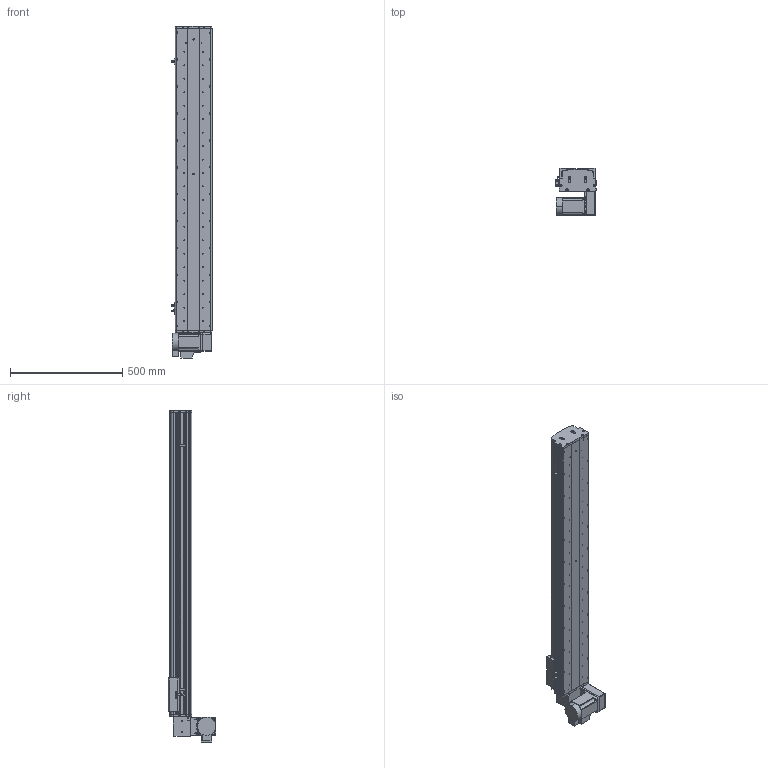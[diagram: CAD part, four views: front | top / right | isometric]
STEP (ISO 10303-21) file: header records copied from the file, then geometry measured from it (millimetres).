
FILE_DESCRIPTION (( 'STEP AP214' ), '1' );
FILE_NAME ('KSD165B-S1100-MRD-CM.STEP', '2017-10-17T00:38:28', ( '微软用户' ), ( '微软中国' ), 'SwSTEP 2.0', 'SolidWorks 2014', '' );
FILE_SCHEMA (( 'AUTOMOTIVE_DESIGN' ));
Length unit declared in the file: millimetre
Products named in the file (17): KSD165模组同步带底板-1100行程; 拸秶雄ん750W侜督萇儂; 165宽马达安装板同步带右; U倰嫖萇假蚾璃; U倰嫖萇EEㄜSX672; 覜茼え68遵圉猾敕; KSD165模组-同步带-防撞垫2; KSD165模组同步带-防撞垫1; KSD165耀郪-ヶ傷啣1-肮祭湍; KSD165模组-后端板1-同步带; KSD165模组-同步带滑动座-最新版; KSD165B-S1100-MRD-CM; 130宽模组马达安装板连板上下折丝杆同步带; 130宽模组保护罩上下左右折-同步带; HTPA26S5M250-A-H8 750W萇儂蚚; HTPA26S5M250-A-H8 400W萇儂蚚 ; KSD165模组-同步带防尘盖1-1100行程
Assembly tree (20 placements, depth 2):
  KSD165B-S1100-MRD-CM
    KSD165模组-同步带滑动座-最新版
    KSD165模组-后端板1-同步带
    KSD165耀郪-ヶ傷啣1-肮祭湍
    KSD165模组同步带-防撞垫1
    KSD165模组-同步带-防撞垫2
    覜茼え68遵圉猾敕
    U倰嫖萇EEㄜSX672  x3
    U倰嫖萇假蚾璃  x3
    165宽马达安装板同步带右
    拸秶雄ん750W侜督萇儂
    KSD165模组同步带底板-1100行程
    KSD165模组-同步带防尘盖1-1100行程
    HTPA26S5M250-A-H8 400W萇儂蚚 
    HTPA26S5M250-A-H8 750W萇儂蚚
    130宽模组保护罩上下左右折-同步带
    130宽模组马达安装板连板上下折丝杆同步带
Bounding box: 178.7 x 210 x 1480.5 mm (x, y, z)
Volume: 8366898.5 mm3; surface area: 1947378.4 mm2
Topology: 21 solids, 21 shells, 1989 faces, 5622 edges, 3672 vertices
Faces by surface type: cylinder 1287, plane 590, cone 112
Entity records: 64860 total; most frequent: CARTESIAN_POINT 13312, DIRECTION 10634, ORIENTED_EDGE 9904, EDGE_CURVE 4952, AXIS2_PLACEMENT_3D 4176, VERTEX_POINT 3264, CIRCLE 2384, VECTOR 2282
